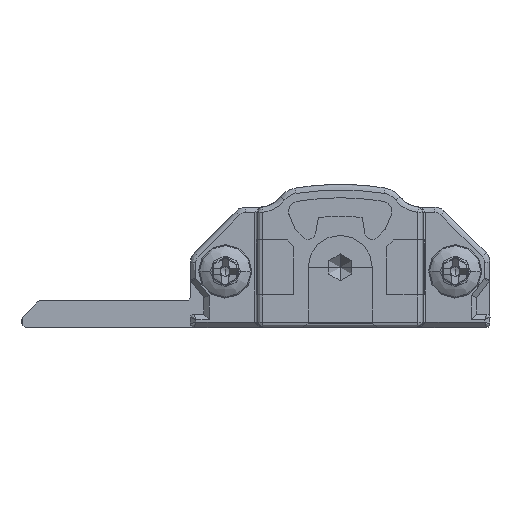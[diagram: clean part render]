
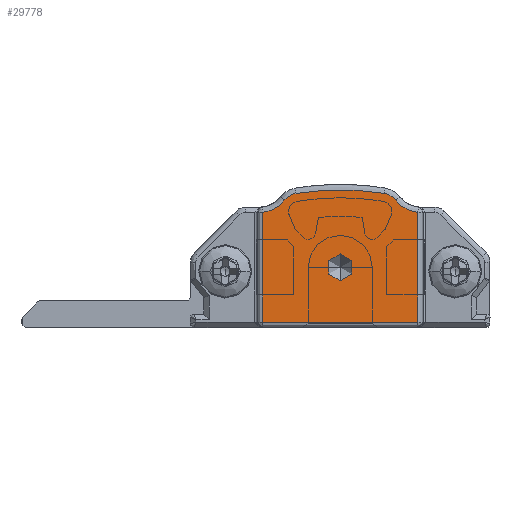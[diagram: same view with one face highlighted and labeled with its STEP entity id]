
A CAD part, front view. The second image highlights one B-rep face of the part: STEP entity #29778.
In plain terms, the highlighted planar face has unit normal (0, -1, 0).
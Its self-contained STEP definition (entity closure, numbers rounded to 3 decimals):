
#325 = AXIS2_PLACEMENT_3D ( 'NONE', #13907, #13676, #10703 ) ;
#350 = CARTESIAN_POINT ( 'NONE',  ( 15.332, -15., 9.541 ) ) ;
#604 = EDGE_CURVE ( 'NONE', #32706, #2834, #20858, .T. ) ;
#814 = CARTESIAN_POINT ( 'NONE',  ( 17., -15., 0.4 ) ) ;
#1347 = CARTESIAN_POINT ( 'NONE',  ( 11.2, -15., 4.5 ) ) ;
#1641 = EDGE_CURVE ( 'NONE', #29584, #14905, #20077, .T. ) ;
#2246 = EDGE_CURVE ( 'NONE', #12675, #38808, #11962, .T. ) ;
#2827 = CARTESIAN_POINT ( 'NONE',  ( 7.068, -15., 9.541 ) ) ;
#2834 = VERTEX_POINT ( 'NONE', #21664 ) ;
#2895 = DIRECTION ( 'NONE',  ( 0., 0., -1. ) ) ;
#4063 = EDGE_CURVE ( 'NONE', #11265, #31731, #5538, .T. ) ;
#4765 = PLANE ( 'NONE',  #38328 ) ;
#4788 = CIRCLE ( 'NONE', #20073, 2.4 ) ;
#5009 = CARTESIAN_POINT ( 'NONE',  ( 14.3, -15., 8.75 ) ) ;
#5378 = EDGE_CURVE ( 'NONE', #14316, #34658, #4788, .T. ) ;
#5434 = CARTESIAN_POINT ( 'NONE',  ( 22.15, -15., 3.606 ) ) ;
#5538 = CIRCLE ( 'NONE', #9887, 2.4 ) ;
#8340 = ORIENTED_EDGE ( 'NONE', *, *, #604, .T. ) ;
#8390 = DIRECTION ( 'NONE',  ( 0., -1., 0. ) ) ;
#8418 = CARTESIAN_POINT ( 'NONE',  ( 14.508, -15., 10.034 ) ) ;
#8714 = DIRECTION ( 'NONE',  ( 0., -1., 0. ) ) ;
#8830 = EDGE_LOOP ( 'NONE', ( #19143, #24555, #40484, #20970, #12757, #34364, #9081, #8340 ) ) ;
#9081 = ORIENTED_EDGE ( 'NONE', *, *, #17829, .T. ) ;
#9488 = EDGE_CURVE ( 'NONE', #2834, #11265, #36830, .T. ) ;
#9887 = AXIS2_PLACEMENT_3D ( 'NONE', #41181, #27035, #40741 ) ;
#10703 = DIRECTION ( 'NONE',  ( 0., 0., -1. ) ) ;
#11265 = VERTEX_POINT ( 'NONE', #26505 ) ;
#11544 = DIRECTION ( 'NONE',  ( 0., 0., -1. ) ) ;
#11746 = CARTESIAN_POINT ( 'NONE',  ( 17., -15., 8.612 ) ) ;
#11833 = DIRECTION ( 'NONE',  ( 0., -1., 0. ) ) ;
#11962 = CIRCLE ( 'NONE', #38171, 20.676 ) ;
#12004 = DIRECTION ( 'NONE',  ( 0., -1., 0. ) ) ;
#12675 = VERTEX_POINT ( 'NONE', #8418 ) ;
#12757 = ORIENTED_EDGE ( 'NONE', *, *, #37956, .T. ) ;
#13146 = VECTOR ( 'NONE', #30241, 1000. ) ;
#13500 = CARTESIAN_POINT ( 'NONE',  ( 11.2, -15., 5.5 ) ) ;
#13676 = DIRECTION ( 'NONE',  ( 0., -1., 0. ) ) ;
#13907 = CARTESIAN_POINT ( 'NONE',  ( 8.1, -15., 8.75 ) ) ;
#14316 = VERTEX_POINT ( 'NONE', #2827 ) ;
#14905 = VERTEX_POINT ( 'NONE', #25856 ) ;
#15093 = CARTESIAN_POINT ( 'NONE',  ( 5.4, -15., 8.612 ) ) ;
#16168 = EDGE_LOOP ( 'NONE', ( #24023, #41672 ) ) ;
#16250 = DIRECTION ( 'NONE',  ( 0., 0., -1. ) ) ;
#17829 = EDGE_CURVE ( 'NONE', #34658, #32706, #26389, .T. ) ;
#18544 = EDGE_CURVE ( 'NONE', #31731, #12675, #25515, .T. ) ;
#19143 = ORIENTED_EDGE ( 'NONE', *, *, #9488, .T. ) ;
#20073 = AXIS2_PLACEMENT_3D ( 'NONE', #39733, #28780, #22406 ) ;
#20077 = CIRCLE ( 'NONE', #26577, 1. ) ;
#20244 = CARTESIAN_POINT ( 'NONE',  ( 5.4, -15., 0.4 ) ) ;
#20858 = LINE ( 'NONE', #814, #26122 ) ;
#20970 = ORIENTED_EDGE ( 'NONE', *, *, #2246, .T. ) ;
#21664 = CARTESIAN_POINT ( 'NONE',  ( 17., -15., 0.4 ) ) ;
#22307 = DIRECTION ( 'NONE',  ( 0., 0., -1. ) ) ;
#22406 = DIRECTION ( 'NONE',  ( 0., 0., -1. ) ) ;
#22654 = AXIS2_PLACEMENT_3D ( 'NONE', #5009, #11833, #26400 ) ;
#23859 = CIRCLE ( 'NONE', #35593, 1. ) ;
#24023 = ORIENTED_EDGE ( 'NONE', *, *, #32753, .F. ) ;
#24555 = ORIENTED_EDGE ( 'NONE', *, *, #4063, .T. ) ;
#25323 = CARTESIAN_POINT ( 'NONE',  ( 7.892, -15., 10.034 ) ) ;
#25515 = CIRCLE ( 'NONE', #22654, 1.3 ) ;
#25856 = CARTESIAN_POINT ( 'NONE',  ( 11.2, -15., 3.5 ) ) ;
#25892 = CARTESIAN_POINT ( 'NONE',  ( 11.2, -15., -10.376 ) ) ;
#25914 = FACE_BOUND ( 'NONE', #16168, .T. ) ;
#26122 = VECTOR ( 'NONE', #38648, 1000. ) ;
#26389 = LINE ( 'NONE', #20244, #13146 ) ;
#26400 = DIRECTION ( 'NONE',  ( 0., 0., -1. ) ) ;
#26505 = CARTESIAN_POINT ( 'NONE',  ( 17., -15., 8.612 ) ) ;
#26577 = AXIS2_PLACEMENT_3D ( 'NONE', #1347, #8390, #22307 ) ;
#27035 = DIRECTION ( 'NONE',  ( 0., 1., 0. ) ) ;
#28780 = DIRECTION ( 'NONE',  ( 0., 1., 0. ) ) ;
#29584 = VERTEX_POINT ( 'NONE', #13500 ) ;
#29778 = ADVANCED_FACE ( 'NONE', ( #35996, #25914 ), #4765, .T. ) ;
#30228 = DIRECTION ( 'NONE',  ( 0., -1., 0. ) ) ;
#30241 = DIRECTION ( 'NONE',  ( 0., 0., -1. ) ) ;
#31731 = VERTEX_POINT ( 'NONE', #350 ) ;
#32706 = VERTEX_POINT ( 'NONE', #39068 ) ;
#32753 = EDGE_CURVE ( 'NONE', #14905, #29584, #23859, .T. ) ;
#32833 = VECTOR ( 'NONE', #40035, 1000. ) ;
#34364 = ORIENTED_EDGE ( 'NONE', *, *, #5378, .T. ) ;
#34658 = VERTEX_POINT ( 'NONE', #15093 ) ;
#35593 = AXIS2_PLACEMENT_3D ( 'NONE', #44090, #8714, #16250 ) ;
#35996 = FACE_OUTER_BOUND ( 'NONE', #8830, .T. ) ;
#36830 = LINE ( 'NONE', #11746, #32833 ) ;
#37956 = EDGE_CURVE ( 'NONE', #38808, #14316, #43276, .T. ) ;
#38171 = AXIS2_PLACEMENT_3D ( 'NONE', #25892, #12004, #11544 ) ;
#38328 = AXIS2_PLACEMENT_3D ( 'NONE', #5434, #30228, #2895 ) ;
#38648 = DIRECTION ( 'NONE',  ( 1., 0., 0. ) ) ;
#38808 = VERTEX_POINT ( 'NONE', #25323 ) ;
#39068 = CARTESIAN_POINT ( 'NONE',  ( 5.4, -15., 0.4 ) ) ;
#39733 = CARTESIAN_POINT ( 'NONE',  ( 5.162, -15., 11. ) ) ;
#40035 = DIRECTION ( 'NONE',  ( 0., 0., 1. ) ) ;
#40484 = ORIENTED_EDGE ( 'NONE', *, *, #18544, .T. ) ;
#40741 = DIRECTION ( 'NONE',  ( 0., 0., -1. ) ) ;
#41181 = CARTESIAN_POINT ( 'NONE',  ( 17.238, -15., 11. ) ) ;
#41672 = ORIENTED_EDGE ( 'NONE', *, *, #1641, .F. ) ;
#43276 = CIRCLE ( 'NONE', #325, 1.3 ) ;
#44090 = CARTESIAN_POINT ( 'NONE',  ( 11.2, -15., 4.5 ) ) ;
